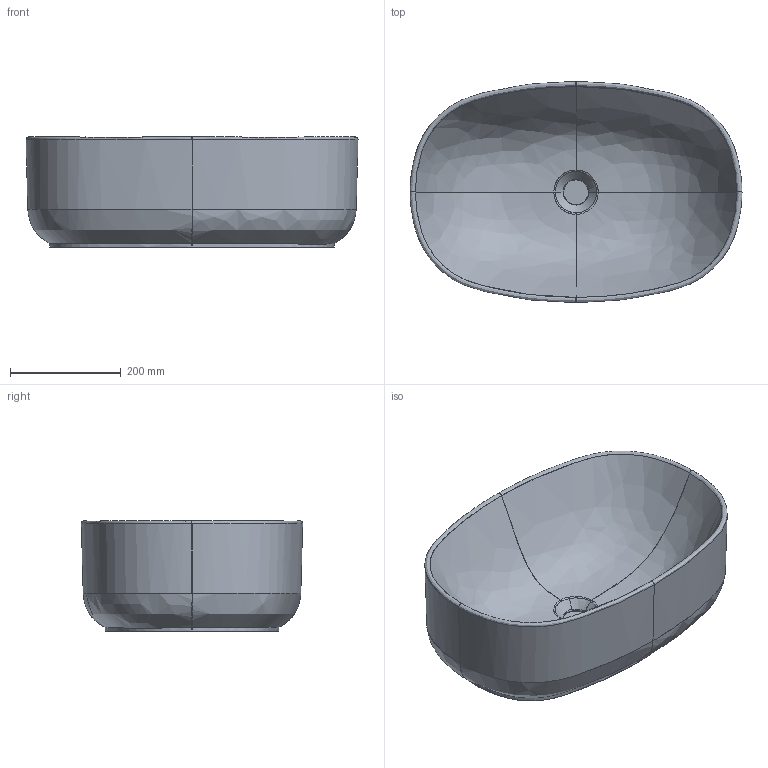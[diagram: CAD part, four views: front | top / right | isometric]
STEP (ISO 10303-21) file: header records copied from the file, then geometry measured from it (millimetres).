
FILE_DESCRIPTION(/* description */ (''),/* implementation_level */ '2;1');
FILE_NAME(/* name */ 'LAVABO~1',/* time_stamp */ '2019-12-16T10:53:27+01:00',/* author */ (''),/* organization */ (''),/* preprocessor_version */ 'ST-DEVELOPER v16.5',/* originating_system */ '',/* authorisation */ '');
FILE_SCHEMA (('AUTOMOTIVE_DESIGN'));
Length unit declared in the file: millimetre
Products named in the file (1): Document
Bounding box: 599.69 x 399.69 x 199.44 mm (x, y, z)
Surface area: 784879.5 mm2 (no closed solid volume)
Topology: 0 solids, 44 shells, 44 faces, 157 edges, 157 vertices
Faces by surface type: bspline 38, plane 6
Entity records: 15818 total; most frequent: CARTESIAN_POINT 14844, ORIENTED_EDGE 157, EDGE_CURVE 157, B_SPLINE_CURVE_WITH_KNOTS 157, VERTEX_POINT 157, EDGE_LOOP 46, PRESENTATION_LAYER_ASSIGNMENT 44, SHELL_BASED_SURFACE_MODEL 44
